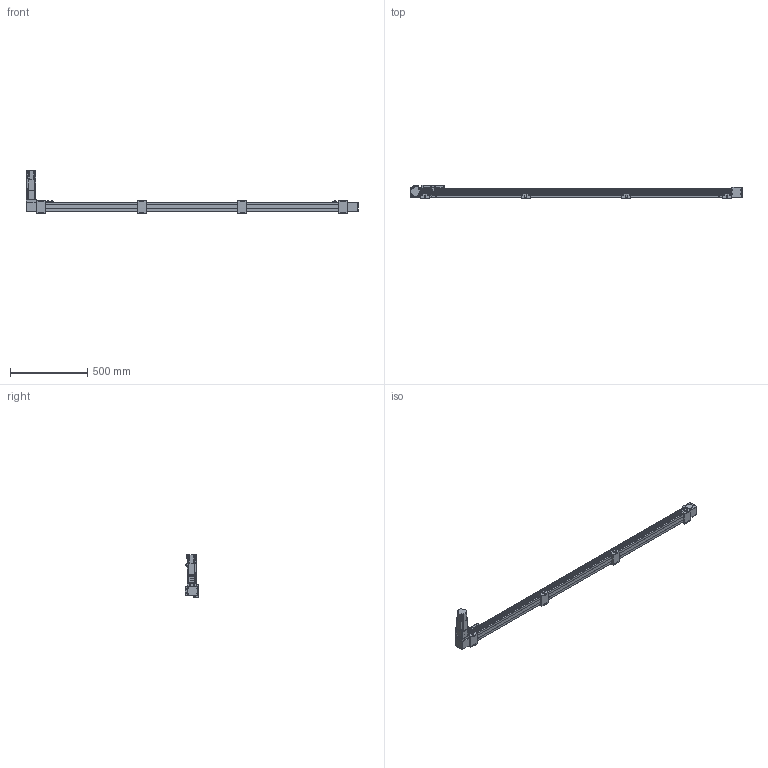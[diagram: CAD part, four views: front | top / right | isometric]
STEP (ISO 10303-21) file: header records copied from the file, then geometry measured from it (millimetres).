
FILE_DESCRIPTION(/* description */ ('STEP AP203'),/* implementation_level */ '2;1');
FILE_NAME(/* name */ 'SK60-P13-S1850-BL-T40-C1-N(0)',/* time_stamp */ '2023-04-06T03:37:28+02:00',/* author */ ('License CC BY-ND 4.0'),/* organization */ ('CADENAS'),/* preprocessor_version */ 'ST-DEVELOPER v19.3',/* originating_system */ 'PARTsolutions',/* authorisation */ ' ');
FILE_SCHEMA (('CONFIG_CONTROL_DESIGN'));
Length unit declared in the file: millimetre
Products named in the file (11): SK60-P13-S1850-BL-T40-C1-N(0); PSC140-sensor; SK60-S450_seat; SK60-S450-BL-C1_slider; SK60_body3; SK60_body6; SK60-BL_body2; T40-p1; SK60_body5; SK60_body4; SK60-S1850-BL-C1_body
Assembly tree (19 placements, depth 2):
  SK60-P13-S1850-BL-T40-C1-N(0)
    PSC140-sensor  x3
    SK60-S450_seat  x4
    SK60-S450-BL-C1_slider
    SK60_body3  x3
    SK60_body6  x2
    SK60-BL_body2  x2
    T40-p1
    SK60_body5
    SK60_body4
    SK60-S1850-BL-C1_body
Bounding box: 2150 x 90 x 278.2 mm (x, y, z)
Volume: 7895476.9 mm3; surface area: 989952.7 mm2
Topology: 19 solids, 23 shells, 922 faces, 2305 edges, 1522 vertices
Faces by surface type: plane 592, cylinder 298, cone 30, torus 2
Full cylindrical faces by diameter (mm): 2.8 x3, 3.3 x4, 4.2 x8, 4.5 x26, 4.6 x3, 4.917 x24, 5 x2, 5.478 x4, 5.5 x27, 6.5 x8, 8 x4, 8.5 x4, 9.988 x4, 10 x16, 13.556 x1, 14 x1, 14.586 x1, 19.692 x1, 38.432 x2, 43 x1, 44 x3, 47 x2, 50 x2
Entity records: 19387 total; most frequent: DIRECTION 3296, CARTESIAN_POINT 3291, ORIENTED_EDGE 3050, EDGE_CURVE 1525, AXIS2_PLACEMENT_3D 1102, LINE 1092, VECTOR 1092, VERTEX_POINT 1077
